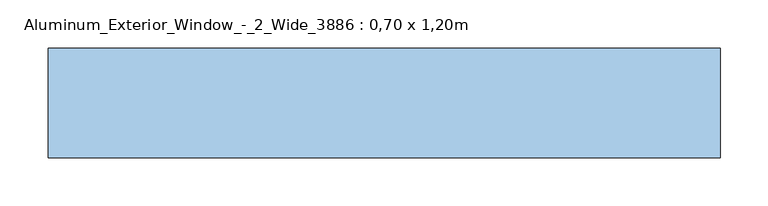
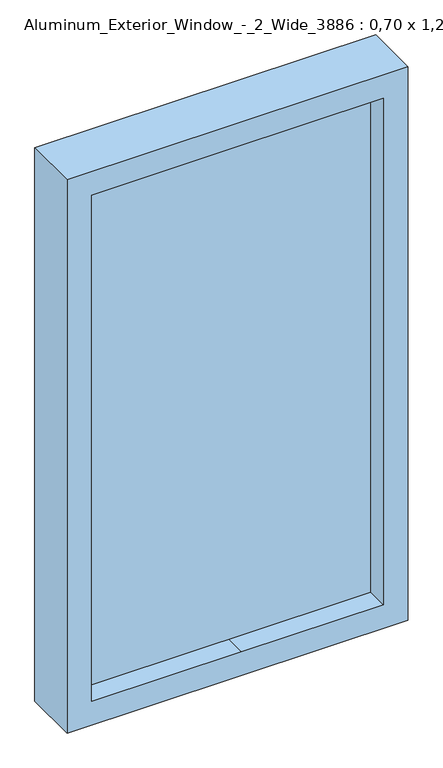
"""IFC4 building model written with IfcOpenShell, lengths in millimetres: window geometry, Aluminum_Exterior_Window_-_2_Wide_3886 : 0,70 x 1,20m."""

from ifc_helpers import new_model, si_unit, frame, origin, place, context, project, spatial, polyline, outline, extrude, source, transform, mapped, element, save


def aluminum_exterior_window_2_wide_3886_0_70_x_1_20m_e8476e25(model_context):
    return source(origin(), model_context, "Body", "SweptSolid", [
        extrude(outline(polyline([(2216.0, -1371.6), (1016.0, -1371.6), (1016.0, -671.6), (2216.0, -671.6), (2216.0, -1371.6)]), holes=[polyline([(2165.2, -1047.0), (2165.2, -722.4), (1066.8, -722.4), (1066.8, -1013.8808837), (1066.8, -1320.8), (2165.2, -1320.8), (2165.2, -1047.0)])]), frame((0.0, -76.1575246, 0.0), z_axis=(0.0, 1.0, 0.0), x_axis=(0.0, 0.0, 1.0)), (0.0, 0.0, 1.0), 114.3),
        extrude(outline(polyline([(2165.2, -1047.0), (2165.2, -1320.8), (1066.8, -1320.8), (1066.8, -1020.891469), (1066.8, -722.4), (2165.2, -722.4), (2165.2, -1047.0)])), frame((0.0, -31.7075246, 0.0), z_axis=(0.0, 1.0, 0.0), x_axis=(0.0, 0.0, 1.0)), (0.0, 0.0, 1.0), 25.4),
    ])


if __name__ == "__main__":
    model = new_model("IFC4")
    model_context = context("Model", 3, world=origin())
    ifc_project = project(units=[si_unit("LENGTHUNIT", "METRE", prefix="MILLI")], contexts=[model_context])
    site = spatial("IfcSite", under=ifc_project)
    building = spatial("IfcBuilding", under=site)
    placement = place(None, origin())
    aluminum_exterior_window_2_wide_3886_0_70_x_1_20m_shape = aluminum_exterior_window_2_wide_3886_0_70_x_1_20m_e8476e25(model_context)
    element("IfcWindow", 1, ObjectType="Aluminum_Exterior_Window_-_2_Wide_3886 : 0,70 x 1,20m", at=placement, inside=building, context=model_context, shape_type="MappedRepresentation", body=[
        mapped(aluminum_exterior_window_2_wide_3886_0_70_x_1_20m_shape, transform((0.0, 0.0, 0.0), x_axis=(1.0, 0.0, 0.0), y_axis=(0.0, 1.0, 0.0), z_axis=(0.0, 0.0, 1.0))),
    ])
    save(model, "model.ifc")
